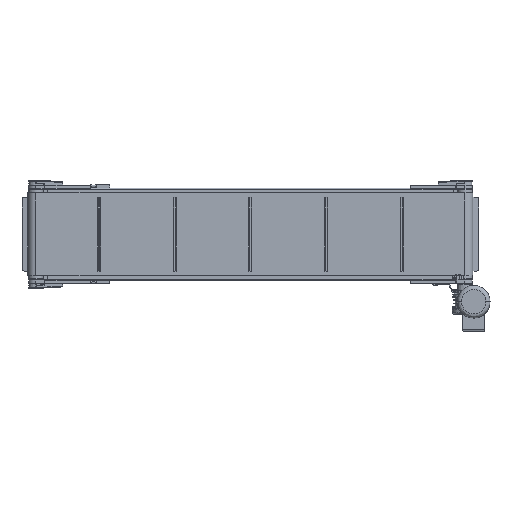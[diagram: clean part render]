
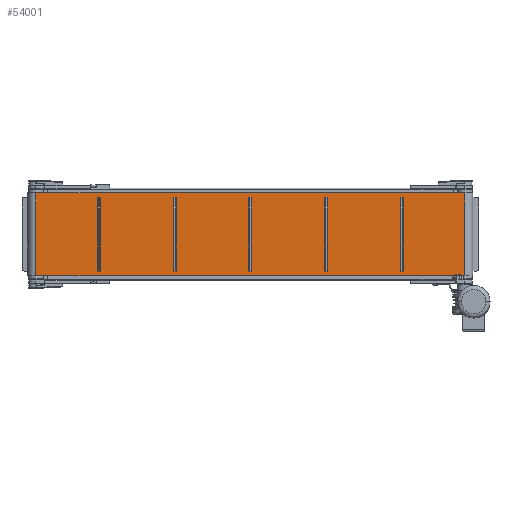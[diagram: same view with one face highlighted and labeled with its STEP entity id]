
A CAD part, front view. The second image highlights one B-rep face of the part: STEP entity #54001.
In plain terms, the highlighted planar face has unit normal (0, -1, 0).
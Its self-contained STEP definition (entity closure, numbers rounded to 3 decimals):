
#2109 = ORIENTED_EDGE ( 'NONE', *, *, #127847, .T. ) ;
#11714 = CARTESIAN_POINT ( 'NONE',  ( 725., -27., 140. ) ) ;
#13531 = CARTESIAN_POINT ( 'NONE',  ( -725., -27., -140. ) ) ;
#15344 = VECTOR ( 'NONE', #101626, 1000. ) ;
#22532 = DIRECTION ( 'NONE',  ( 0., 0., 1. ) ) ;
#26728 = CARTESIAN_POINT ( 'NONE',  ( -725., -27., 140. ) ) ;
#26964 = CARTESIAN_POINT ( 'NONE',  ( -725., -27., 140. ) ) ;
#35356 = CARTESIAN_POINT ( 'NONE',  ( 725., -27., 140. ) ) ;
#48003 = VECTOR ( 'NONE', #82369, 1000. ) ;
#49279 = VERTEX_POINT ( 'NONE', #124953 ) ;
#54001 = ADVANCED_FACE ( 'NONE', ( #92640 ), #134941, .F. ) ;
#60101 = EDGE_CURVE ( 'NONE', #49279, #80345, #96089, .T. ) ;
#63048 = LINE ( 'NONE', #11714, #133459 ) ;
#63589 = LINE ( 'NONE', #72660, #48003 ) ;
#64895 = ORIENTED_EDGE ( 'NONE', *, *, #65534, .F. ) ;
#65534 = EDGE_CURVE ( 'NONE', #91011, #83900, #72940, .T. ) ;
#72660 = CARTESIAN_POINT ( 'NONE',  ( -725., -27., 140. ) ) ;
#72940 = LINE ( 'NONE', #26728, #15344 ) ;
#80345 = VERTEX_POINT ( 'NONE', #132191 ) ;
#82369 = DIRECTION ( 'NONE',  ( 0., 0., -1. ) ) ;
#83900 = VERTEX_POINT ( 'NONE', #35356 ) ;
#84568 = DIRECTION ( 'NONE',  ( 0., 0., -1. ) ) ;
#88559 = EDGE_CURVE ( 'NONE', #83900, #80345, #63048, .T. ) ;
#88907 = ORIENTED_EDGE ( 'NONE', *, *, #88559, .F. ) ;
#91011 = VERTEX_POINT ( 'NONE', #26964 ) ;
#92640 = FACE_OUTER_BOUND ( 'NONE', #136514, .T. ) ;
#94697 = CARTESIAN_POINT ( 'NONE',  ( -725., -27., 140. ) ) ;
#94950 = AXIS2_PLACEMENT_3D ( 'NONE', #94697, #127981, #22532 ) ;
#96089 = LINE ( 'NONE', #13531, #131991 ) ;
#98153 = DIRECTION ( 'NONE',  ( 1., 0., 0. ) ) ;
#101626 = DIRECTION ( 'NONE',  ( 1., 0., 0. ) ) ;
#124953 = CARTESIAN_POINT ( 'NONE',  ( -725., -27., -140. ) ) ;
#127847 = EDGE_CURVE ( 'NONE', #91011, #49279, #63589, .T. ) ;
#127981 = DIRECTION ( 'NONE',  ( 0., 1., 0. ) ) ;
#131991 = VECTOR ( 'NONE', #98153, 1000. ) ;
#132191 = CARTESIAN_POINT ( 'NONE',  ( 725., -27., -140. ) ) ;
#132765 = ORIENTED_EDGE ( 'NONE', *, *, #60101, .T. ) ;
#133459 = VECTOR ( 'NONE', #84568, 1000. ) ;
#134941 = PLANE ( 'NONE',  #94950 ) ;
#136514 = EDGE_LOOP ( 'NONE', ( #132765, #88907, #64895, #2109 ) ) ;
